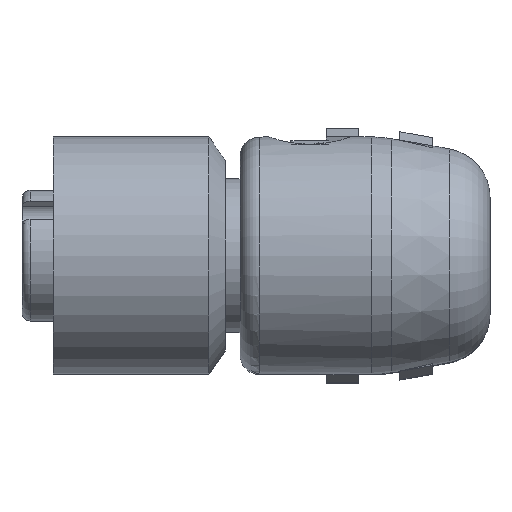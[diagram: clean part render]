
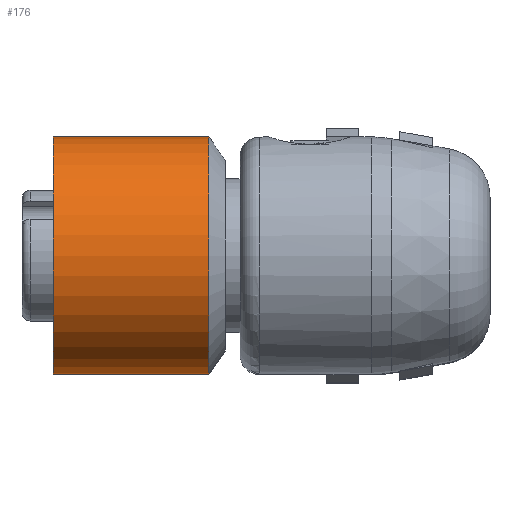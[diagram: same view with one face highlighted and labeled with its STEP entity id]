
A CAD part, top view. The second image highlights one B-rep face of the part: STEP entity #176.
In plain terms, the highlighted cylindrical face has radius 7.25 mm (diameter 14.5 mm), a full revolution.
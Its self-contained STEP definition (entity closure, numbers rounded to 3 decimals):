
#176 = ADVANCED_FACE( '', ( #483, #484 ), #485, .T. );
#483 = FACE_OUTER_BOUND( '', #963, .T. );
#484 = FACE_OUTER_BOUND( '', #964, .T. );
#485 = CYLINDRICAL_SURFACE( '', #965, 7.25 );
#963 = EDGE_LOOP( '', ( #1469 ) );
#964 = EDGE_LOOP( '', ( #1470 ) );
#965 = AXIS2_PLACEMENT_3D( '', #1471, #1472, #1473 );
#1469 = ORIENTED_EDGE( '', *, *, #2739, .F. );
#1470 = ORIENTED_EDGE( '', *, *, #2740, .T. );
#1471 = CARTESIAN_POINT( '', ( -21.3, 0., 0. ) );
#1472 = DIRECTION( '', ( 1., 0., 0. ) );
#1473 = DIRECTION( '', ( 0., 0., 1. ) );
#2739 = EDGE_CURVE( '', #3207, #3207, #3208, .T. );
#2740 = EDGE_CURVE( '', #3209, #3209, #3210, .T. );
#3207 = VERTEX_POINT( '', #3947 );
#3208 = CIRCLE( '', #3948, 7.25 );
#3209 = VERTEX_POINT( '', #3949 );
#3210 = CIRCLE( '', #3950, 7.25 );
#3947 = CARTESIAN_POINT( '', ( -19.4, 0., 7.25 ) );
#3948 = AXIS2_PLACEMENT_3D( '', #5109, #5110, #5111 );
#3949 = CARTESIAN_POINT( '', ( -9.9, 0., 7.25 ) );
#3950 = AXIS2_PLACEMENT_3D( '', #5112, #5113, #5114 );
#5109 = CARTESIAN_POINT( '', ( -19.4, 0., 0. ) );
#5110 = DIRECTION( '', ( -1., 0., 0. ) );
#5111 = DIRECTION( '', ( 0., 0., 1. ) );
#5112 = CARTESIAN_POINT( '', ( -9.9, 0., 0. ) );
#5113 = DIRECTION( '', ( -1., 0., 0. ) );
#5114 = DIRECTION( '', ( 0., 0., 1. ) );
